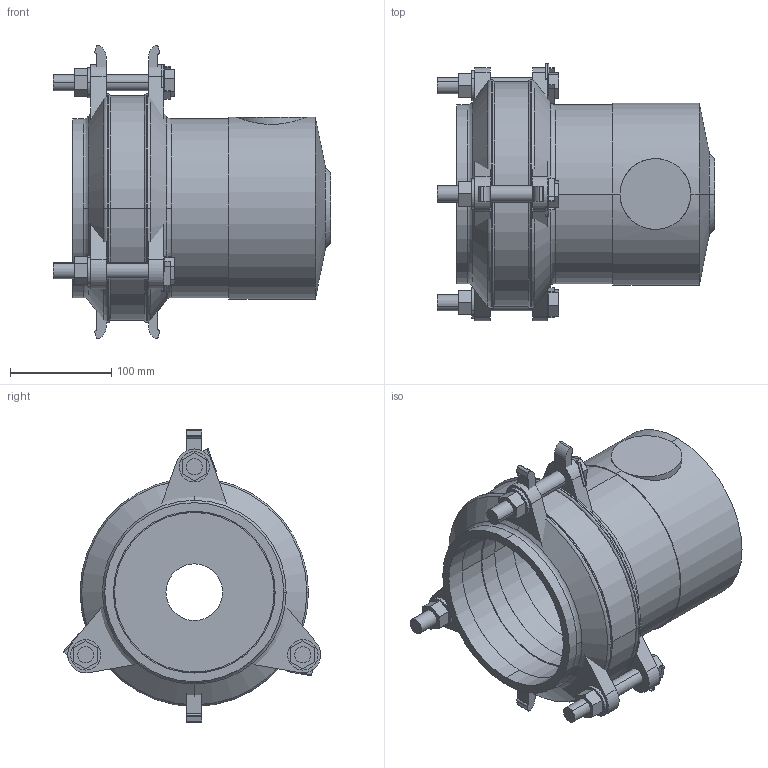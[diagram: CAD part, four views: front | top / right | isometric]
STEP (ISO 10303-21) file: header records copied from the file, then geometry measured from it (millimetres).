
FILE_DESCRIPTION(('STEP AP214'),'1');
FILE_NAME('HDA1004730 DN 125 axial.STP','2015-02-06T10:03:01',(' '),(' '),'Spatial InterOp 3D',' ',' ');
FILE_SCHEMA(('automotive_design'));
Length unit declared in the file: millimetre
Products named in the file (34): 3D-Objekt
Bounding box: 274 x 254.75 x 290 mm (x, y, z)
Volume: 2269648.1 mm3; surface area: 605982.2 mm2
Topology: 34 solids, 34 shells, 279 faces, 620 edges, 410 vertices
Faces by surface type: plane 180, cylinder 75, cone 12, torus 12
Entity records: 10903 total; most frequent: CARTESIAN_POINT 1474, DIRECTION 1446, ORIENTED_EDGE 1240, EDGE_CURVE 620, AXIS2_PLACEMENT_3D 515, LINE 416, VECTOR 416, VERTEX_POINT 410
